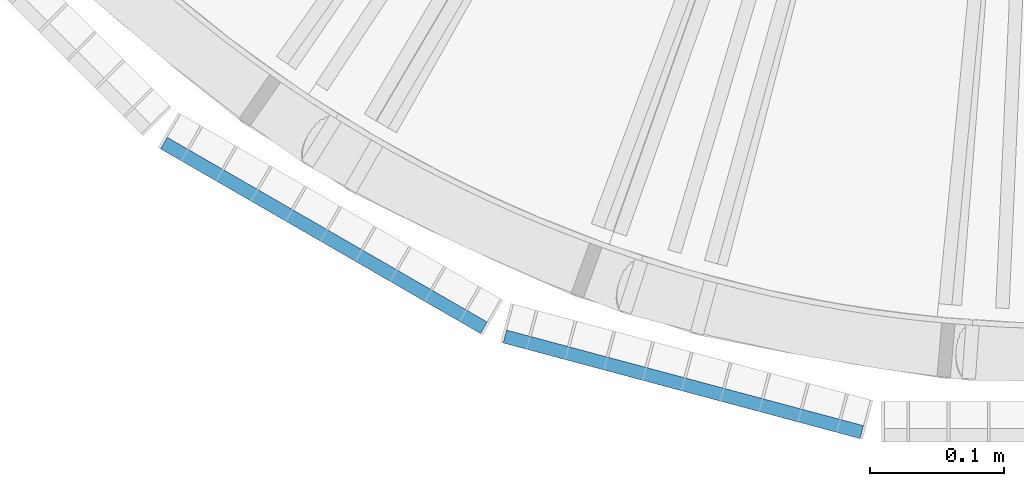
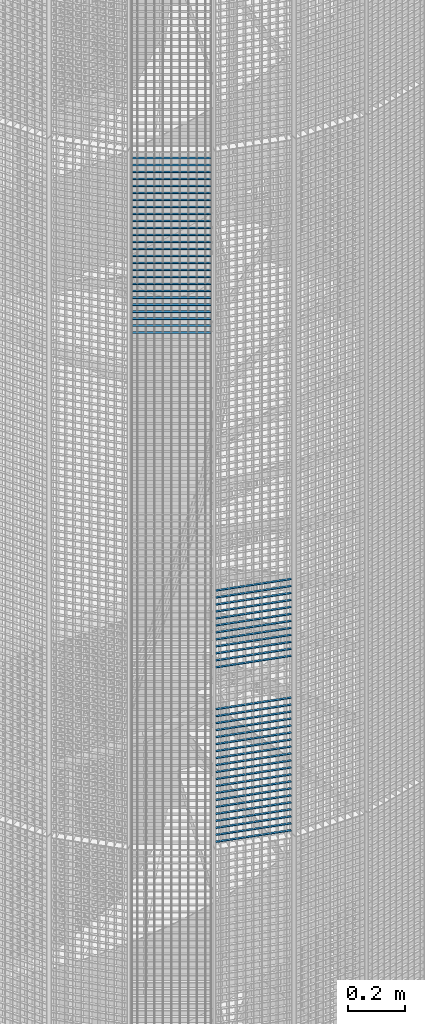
# One storey, part 146 of 1183: 58 beams, 2 elements without a shape of their own.
"""IFC2X3 building model written with IfcOpenShell, lengths in millimetres."""

from ifc_helpers import new_model, si_unit, frame, origin_with_axes, origin_2d_with_axis, place, context, subcontext, project, spatial, rectangle, extrude, material, type_object, element, aggregate, save


model = new_model("IFC2X3")

# Units and contexts
model_context = context("Model", 3, precision=1e-05, world=origin_with_axes())
body_context = subcontext(model_context, "Body", "Model", "MODEL_VIEW")
ifc_project = project(units=[si_unit("LENGTHUNIT", "METRE", prefix="MILLI"), si_unit("AREAUNIT", "SQUARE_METRE"), si_unit("VOLUMEUNIT", "CUBIC_METRE"), si_unit("MASSUNIT", "GRAM", prefix="KILO"), si_unit("TIMEUNIT", "SECOND"), si_unit("PLANEANGLEUNIT", "RADIAN"), si_unit("SOLIDANGLEUNIT", "STERADIAN"), si_unit("THERMODYNAMICTEMPERATUREUNIT", "DEGREE_CELSIUS"), si_unit("LUMINOUSINTENSITYUNIT", "LUMEN")], contexts=[model_context])

# Site, building, storey
site_placement = place(None, origin_with_axes())
site = spatial("IfcSite", under=ifc_project, at=site_placement, Name="Undefined", CompositionType="ELEMENT")
building_placement = place(site_placement, origin_with_axes())
building = spatial("IfcBuilding", under=site, at=building_placement, Name="Undefined", CompositionType="ELEMENT")
storey_placement = place(building_placement, origin_with_axes())
storey = spatial("IfcBuildingStorey", under=building, at=storey_placement, Name="Undefined", CompositionType="ELEMENT", Elevation=0.0)

# Assembly, beams
assembly_1_placement = place(storey_placement, origin_with_axes())
assembly_1 = element("IfcElementAssembly", 1, at=assembly_1_placement, inside=storey, Name="BORDURE", AssemblyPlace="NOTDEFINED", PredefinedType="NOTDEFINED")
ifc_material = material(Name="STEEL/S235JR")
beam_type = type_object("IfcBeamType", Name="PL2*10", PredefinedType="NOTDEFINED")
beam_1_placement = place(assembly_1_placement, frame((-421.483733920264, -1039.82309522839, 12780.0), z_axis=(-0.258819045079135, -0.965925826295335, 0.0), x_axis=(0.965925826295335, -0.258819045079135, 0.0)))
beam_1 = element("IfcBeam", 2, at=beam_1_placement, type_object=beam_type, material=ifc_material, Name="ENTRETOISE", context=body_context, shape_type="SweptSolid", body=[
    extrude(rectangle(XDim=2.0, YDim=10.0, at=origin_2d_with_axis()), frame((275.999999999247, 9.09494701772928e-13, 1.53210777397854e-14), z_axis=(-1.0, 0.0, 0.0), x_axis=(0.0, -1.0, 0.0)), (0.0, 0.0, 1.0), 276.0),
])
beam_2_placement = place(assembly_1_placement, frame((-421.483733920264, -1039.82309522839, 12600.0), z_axis=(-0.258819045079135, -0.965925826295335, 0.0), x_axis=(0.965925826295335, -0.258819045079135, 0.0)))
beam_2 = element("IfcBeam", 3, at=beam_2_placement, type_object=beam_type, material=ifc_material, Name="ENTRETOISE", context=body_context, shape_type="SweptSolid", body=[
    extrude(rectangle(XDim=2.0, YDim=10.0, at=origin_2d_with_axis()), frame((275.999999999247, 9.09494701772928e-13, 1.53210777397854e-14), z_axis=(-1.0, 0.0, 0.0), x_axis=(0.0, -1.0, 0.0)), (0.0, 0.0, 1.0), 276.0),
])
beam_3_placement = place(assembly_1_placement, frame((-421.483733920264, -1039.82309522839, 12810.0), z_axis=(-0.258819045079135, -0.965925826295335, 0.0), x_axis=(0.965925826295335, -0.258819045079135, 0.0)))
beam_3 = element("IfcBeam", 4, at=beam_3_placement, type_object=beam_type, material=ifc_material, Name="ENTRETOISE", context=body_context, shape_type="SweptSolid", body=[
    extrude(rectangle(XDim=2.0, YDim=10.0, at=origin_2d_with_axis()), frame((275.999999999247, 9.09494701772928e-13, 1.53210777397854e-14), z_axis=(-1.0, 0.0, 0.0), x_axis=(0.0, -1.0, 0.0)), (0.0, 0.0, 1.0), 276.0),
])
beam_4_placement = place(assembly_1_placement, frame((-421.483733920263, -1039.82309522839, 12570.0), z_axis=(-0.258819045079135, -0.965925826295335, 0.0), x_axis=(0.965925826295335, -0.258819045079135, 0.0)))
beam_4 = element("IfcBeam", 5, at=beam_4_placement, type_object=beam_type, material=ifc_material, Name="ENTRETOISE", context=body_context, shape_type="SweptSolid", body=[
    extrude(rectangle(XDim=2.0, YDim=10.0, at=origin_2d_with_axis()), frame((275.999999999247, 9.09494701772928e-13, 1.53210777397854e-14), z_axis=(-1.0, 0.0, 0.0), x_axis=(0.0, -1.0, 0.0)), (0.0, 0.0, 1.0), 276.0),
])
beam_5_placement = place(assembly_1_placement, frame((-421.483733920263, -1039.82309522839, 12540.0), z_axis=(-0.258819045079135, -0.965925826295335, 0.0), x_axis=(0.965925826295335, -0.258819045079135, 0.0)))
beam_5 = element("IfcBeam", 6, at=beam_5_placement, type_object=beam_type, material=ifc_material, Name="ENTRETOISE", context=body_context, shape_type="SweptSolid", body=[
    extrude(rectangle(XDim=2.0, YDim=10.0, at=origin_2d_with_axis()), frame((275.999999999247, 9.09494701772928e-13, 1.53210777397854e-14), z_axis=(-1.0, 0.0, 0.0), x_axis=(0.0, -1.0, 0.0)), (0.0, 0.0, 1.0), 276.0),
])
beam_6_placement = place(assembly_1_placement, frame((-421.483733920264, -1039.82309522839, 12840.0), z_axis=(-0.258819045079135, -0.965925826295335, 0.0), x_axis=(0.965925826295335, -0.258819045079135, 0.0)))
beam_6 = element("IfcBeam", 7, at=beam_6_placement, type_object=beam_type, material=ifc_material, Name="ENTRETOISE", context=body_context, shape_type="SweptSolid", body=[
    extrude(rectangle(XDim=2.0, YDim=10.0, at=origin_2d_with_axis()), frame((275.999999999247, 9.09494701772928e-13, 1.53210777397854e-14), z_axis=(-1.0, 0.0, 0.0), x_axis=(0.0, -1.0, 0.0)), (0.0, 0.0, 1.0), 276.0),
])
beam_7_placement = place(assembly_1_placement, frame((-421.483733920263, -1039.82309522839, 12510.0), z_axis=(-0.258819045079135, -0.965925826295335, 0.0), x_axis=(0.965925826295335, -0.258819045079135, 0.0)))
beam_7 = element("IfcBeam", 8, at=beam_7_placement, type_object=beam_type, material=ifc_material, Name="ENTRETOISE", context=body_context, shape_type="SweptSolid", body=[
    extrude(rectangle(XDim=2.0, YDim=10.0, at=origin_2d_with_axis()), frame((275.999999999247, 9.09494701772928e-13, 1.53210777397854e-14), z_axis=(-1.0, 0.0, 0.0), x_axis=(0.0, -1.0, 0.0)), (0.0, 0.0, 1.0), 276.0),
])
beam_8_placement = place(assembly_1_placement, frame((-421.483733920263, -1039.82309522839, 12480.0), z_axis=(-0.258819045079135, -0.965925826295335, 0.0), x_axis=(0.965925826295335, -0.258819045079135, 0.0)))
beam_8 = element("IfcBeam", 9, at=beam_8_placement, type_object=beam_type, material=ifc_material, Name="ENTRETOISE", context=body_context, shape_type="SweptSolid", body=[
    extrude(rectangle(XDim=2.0, YDim=10.0, at=origin_2d_with_axis()), frame((275.999999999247, 9.09494701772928e-13, 1.53210777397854e-14), z_axis=(-1.0, 0.0, 0.0), x_axis=(0.0, -1.0, 0.0)), (0.0, 0.0, 1.0), 276.0),
])
beam_9_placement = place(assembly_1_placement, frame((-421.483733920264, -1039.82309522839, 12870.0), z_axis=(-0.258819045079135, -0.965925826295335, 0.0), x_axis=(0.965925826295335, -0.258819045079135, 0.0)))
beam_9 = element("IfcBeam", 10, at=beam_9_placement, type_object=beam_type, material=ifc_material, Name="ENTRETOISE", context=body_context, shape_type="SweptSolid", body=[
    extrude(rectangle(XDim=2.0, YDim=10.0, at=origin_2d_with_axis()), frame((275.999999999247, 9.09494701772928e-13, 1.53210777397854e-14), z_axis=(-1.0, 0.0, 0.0), x_axis=(0.0, -1.0, 0.0)), (0.0, 0.0, 1.0), 276.0),
])
beam_10_placement = place(assembly_1_placement, frame((-421.483733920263, -1039.82309522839, 12450.0), z_axis=(-0.258819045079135, -0.965925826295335, 0.0), x_axis=(0.965925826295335, -0.258819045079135, 0.0)))
beam_10 = element("IfcBeam", 11, at=beam_10_placement, type_object=beam_type, material=ifc_material, Name="ENTRETOISE", context=body_context, shape_type="SweptSolid", body=[
    extrude(rectangle(XDim=2.0, YDim=10.0, at=origin_2d_with_axis()), frame((275.999999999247, 9.09494701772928e-13, 1.53210777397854e-14), z_axis=(-1.0, 0.0, 0.0), x_axis=(0.0, -1.0, 0.0)), (0.0, 0.0, 1.0), 276.0),
])
beam_11_placement = place(assembly_1_placement, frame((-421.483733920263, -1039.82309522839, 12420.0), z_axis=(-0.258819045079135, -0.965925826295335, 0.0), x_axis=(0.965925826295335, -0.258819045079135, 0.0)))
beam_11 = element("IfcBeam", 12, at=beam_11_placement, type_object=beam_type, material=ifc_material, Name="ENTRETOISE", context=body_context, shape_type="SweptSolid", body=[
    extrude(rectangle(XDim=2.0, YDim=10.0, at=origin_2d_with_axis()), frame((275.999999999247, 9.09494701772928e-13, 1.53210777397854e-14), z_axis=(-1.0, 0.0, 0.0), x_axis=(0.0, -1.0, 0.0)), (0.0, 0.0, 1.0), 276.0),
])
beam_12_placement = place(assembly_1_placement, frame((-421.483733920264, -1039.82309522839, 12900.0), z_axis=(-0.258819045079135, -0.965925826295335, 0.0), x_axis=(0.965925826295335, -0.258819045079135, 0.0)))
beam_12 = element("IfcBeam", 13, at=beam_12_placement, type_object=beam_type, material=ifc_material, Name="ENTRETOISE", context=body_context, shape_type="SweptSolid", body=[
    extrude(rectangle(XDim=2.0, YDim=10.0, at=origin_2d_with_axis()), frame((275.999999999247, 9.09494701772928e-13, 1.53210777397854e-14), z_axis=(-1.0, 0.0, 0.0), x_axis=(0.0, -1.0, 0.0)), (0.0, 0.0, 1.0), 276.0),
])
beam_13_placement = place(assembly_1_placement, frame((-421.483733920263, -1039.82309522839, 12390.0), z_axis=(-0.258819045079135, -0.965925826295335, 0.0), x_axis=(0.965925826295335, -0.258819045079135, 0.0)))
beam_13 = element("IfcBeam", 14, at=beam_13_placement, type_object=beam_type, material=ifc_material, Name="ENTRETOISE", context=body_context, shape_type="SweptSolid", body=[
    extrude(rectangle(XDim=2.0, YDim=10.0, at=origin_2d_with_axis()), frame((275.999999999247, 9.09494701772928e-13, 1.53210777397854e-14), z_axis=(-1.0, 0.0, 0.0), x_axis=(0.0, -1.0, 0.0)), (0.0, 0.0, 1.0), 276.0),
])
beam_14_placement = place(assembly_1_placement, frame((-421.483733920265, -1039.82309522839, 12930.0), z_axis=(-0.258819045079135, -0.965925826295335, 0.0), x_axis=(0.965925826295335, -0.258819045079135, 0.0)))
beam_14 = element("IfcBeam", 15, at=beam_14_placement, type_object=beam_type, material=ifc_material, Name="ENTRETOISE", context=body_context, shape_type="SweptSolid", body=[
    extrude(rectangle(XDim=2.0, YDim=10.0, at=origin_2d_with_axis()), frame((275.999999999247, 9.09494701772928e-13, 1.53210777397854e-14), z_axis=(-1.0, 0.0, 0.0), x_axis=(0.0, -1.0, 0.0)), (0.0, 0.0, 1.0), 276.0),
])
beam_15_placement = place(assembly_1_placement, frame((-421.483733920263, -1039.82309522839, 12360.0), z_axis=(-0.258819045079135, -0.965925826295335, 0.0), x_axis=(0.965925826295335, -0.258819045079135, 0.0)))
beam_15 = element("IfcBeam", 16, at=beam_15_placement, type_object=beam_type, material=ifc_material, Name="ENTRETOISE", context=body_context, shape_type="SweptSolid", body=[
    extrude(rectangle(XDim=2.0, YDim=10.0, at=origin_2d_with_axis()), frame((275.999999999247, 9.09494701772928e-13, 1.53210777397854e-14), z_axis=(-1.0, 0.0, 0.0), x_axis=(0.0, -1.0, 0.0)), (0.0, 0.0, 1.0), 276.0),
])
beam_16_placement = place(assembly_1_placement, frame((-421.483733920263, -1039.82309522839, 12330.0), z_axis=(-0.258819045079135, -0.965925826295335, 0.0), x_axis=(0.965925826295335, -0.258819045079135, 0.0)))
beam_16 = element("IfcBeam", 17, at=beam_16_placement, type_object=beam_type, material=ifc_material, Name="ENTRETOISE", context=body_context, shape_type="SweptSolid", body=[
    extrude(rectangle(XDim=2.0, YDim=10.0, at=origin_2d_with_axis()), frame((275.999999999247, 9.09494701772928e-13, 1.53210777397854e-14), z_axis=(-1.0, 0.0, 0.0), x_axis=(0.0, -1.0, 0.0)), (0.0, 0.0, 1.0), 276.0),
])
beam_17_placement = place(assembly_1_placement, frame((-421.483733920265, -1039.82309522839, 12960.0), z_axis=(-0.258819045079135, -0.965925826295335, 0.0), x_axis=(0.965925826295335, -0.258819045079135, 0.0)))
beam_17 = element("IfcBeam", 18, at=beam_17_placement, type_object=beam_type, material=ifc_material, Name="ENTRETOISE", context=body_context, shape_type="SweptSolid", body=[
    extrude(rectangle(XDim=2.0, YDim=10.0, at=origin_2d_with_axis()), frame((275.999999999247, 9.09494701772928e-13, 1.53210777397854e-14), z_axis=(-1.0, 0.0, 0.0), x_axis=(0.0, -1.0, 0.0)), (0.0, 0.0, 1.0), 276.0),
])
beam_18_placement = place(assembly_1_placement, frame((-421.483733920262, -1039.82309522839, 12300.0), z_axis=(-0.258819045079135, -0.965925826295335, 0.0), x_axis=(0.965925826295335, -0.258819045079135, 0.0)))
beam_18 = element("IfcBeam", 19, at=beam_18_placement, type_object=beam_type, material=ifc_material, Name="ENTRETOISE", context=body_context, shape_type="SweptSolid", body=[
    extrude(rectangle(XDim=2.0, YDim=10.0, at=origin_2d_with_axis()), frame((275.999999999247, 9.09494701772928e-13, 1.53210777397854e-14), z_axis=(-1.0, 0.0, 0.0), x_axis=(0.0, -1.0, 0.0)), (0.0, 0.0, 1.0), 276.0),
])
beam_19_placement = place(assembly_1_placement, frame((-421.483733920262, -1039.82309522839, 12270.0), z_axis=(-0.258819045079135, -0.965925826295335, 0.0), x_axis=(0.965925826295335, -0.258819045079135, 0.0)))
beam_19 = element("IfcBeam", 20, at=beam_19_placement, type_object=beam_type, material=ifc_material, Name="ENTRETOISE", context=body_context, shape_type="SweptSolid", body=[
    extrude(rectangle(XDim=2.0, YDim=10.0, at=origin_2d_with_axis()), frame((275.999999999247, 9.09494701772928e-13, 1.53210777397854e-14), z_axis=(-1.0, 0.0, 0.0), x_axis=(0.0, -1.0, 0.0)), (0.0, 0.0, 1.0), 276.0),
])
beam_20_placement = place(assembly_1_placement, frame((-421.483733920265, -1039.82309522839, 12990.0), z_axis=(-0.258819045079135, -0.965925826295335, 0.0), x_axis=(0.965925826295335, -0.258819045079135, 0.0)))
beam_20 = element("IfcBeam", 21, at=beam_20_placement, type_object=beam_type, material=ifc_material, Name="ENTRETOISE", context=body_context, shape_type="SweptSolid", body=[
    extrude(rectangle(XDim=2.0, YDim=10.0, at=origin_2d_with_axis()), frame((275.999999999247, 9.09494701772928e-13, 1.53210777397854e-14), z_axis=(-1.0, 0.0, 0.0), x_axis=(0.0, -1.0, 0.0)), (0.0, 0.0, 1.0), 276.0),
])
beam_21_placement = place(assembly_1_placement, frame((-421.483733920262, -1039.82309522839, 12240.0), z_axis=(-0.258819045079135, -0.965925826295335, 0.0), x_axis=(0.965925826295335, -0.258819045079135, 0.0)))
beam_21 = element("IfcBeam", 22, at=beam_21_placement, type_object=beam_type, material=ifc_material, Name="ENTRETOISE", context=body_context, shape_type="SweptSolid", body=[
    extrude(rectangle(XDim=2.0, YDim=10.0, at=origin_2d_with_axis()), frame((275.999999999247, 9.09494701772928e-13, 1.53210777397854e-14), z_axis=(-1.0, 0.0, 0.0), x_axis=(0.0, -1.0, 0.0)), (0.0, 0.0, 1.0), 276.0),
])
beam_22_placement = place(assembly_1_placement, frame((-421.483733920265, -1039.82309522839, 13020.0), z_axis=(-0.258819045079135, -0.965925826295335, 0.0), x_axis=(0.965925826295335, -0.258819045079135, 0.0)))
beam_22 = element("IfcBeam", 23, at=beam_22_placement, type_object=beam_type, material=ifc_material, Name="ENTRETOISE", context=body_context, shape_type="SweptSolid", body=[
    extrude(rectangle(XDim=2.0, YDim=10.0, at=origin_2d_with_axis()), frame((275.999999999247, 9.09494701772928e-13, 1.53210777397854e-14), z_axis=(-1.0, 0.0, 0.0), x_axis=(0.0, -1.0, 0.0)), (0.0, 0.0, 1.0), 276.0),
])
beam_23_placement = place(assembly_1_placement, frame((-421.483733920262, -1039.82309522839, 12210.0), z_axis=(-0.258819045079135, -0.965925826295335, 0.0), x_axis=(0.965925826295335, -0.258819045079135, 0.0)))
beam_23 = element("IfcBeam", 24, at=beam_23_placement, type_object=beam_type, material=ifc_material, Name="ENTRETOISE", context=body_context, shape_type="SweptSolid", body=[
    extrude(rectangle(XDim=2.0, YDim=10.0, at=origin_2d_with_axis()), frame((275.999999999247, 9.09494701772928e-13, 1.53210777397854e-14), z_axis=(-1.0, 0.0, 0.0), x_axis=(0.0, -1.0, 0.0)), (0.0, 0.0, 1.0), 276.0),
])
beam_24_placement = place(assembly_1_placement, frame((-421.483733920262, -1039.82309522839, 12180.0), z_axis=(-0.258819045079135, -0.965925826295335, 0.0), x_axis=(0.965925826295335, -0.258819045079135, 0.0)))
beam_24 = element("IfcBeam", 25, at=beam_24_placement, type_object=beam_type, material=ifc_material, Name="ENTRETOISE", context=body_context, shape_type="SweptSolid", body=[
    extrude(rectangle(XDim=2.0, YDim=10.0, at=origin_2d_with_axis()), frame((275.999999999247, 9.09494701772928e-13, 1.53210777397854e-14), z_axis=(-1.0, 0.0, 0.0), x_axis=(0.0, -1.0, 0.0)), (0.0, 0.0, 1.0), 276.0),
])
beam_25_placement = place(assembly_1_placement, frame((-421.483733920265, -1039.82309522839, 13050.0), z_axis=(-0.258819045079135, -0.965925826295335, 0.0), x_axis=(0.965925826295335, -0.258819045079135, 0.0)))
beam_25 = element("IfcBeam", 26, at=beam_25_placement, type_object=beam_type, material=ifc_material, Name="ENTRETOISE", context=body_context, shape_type="SweptSolid", body=[
    extrude(rectangle(XDim=2.0, YDim=10.0, at=origin_2d_with_axis()), frame((275.999999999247, 9.09494701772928e-13, 1.53210777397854e-14), z_axis=(-1.0, 0.0, 0.0), x_axis=(0.0, -1.0, 0.0)), (0.0, 0.0, 1.0), 276.0),
])
beam_26_placement = place(assembly_1_placement, frame((-421.483733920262, -1039.82309522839, 12150.0), z_axis=(-0.258819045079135, -0.965925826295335, 0.0), x_axis=(0.965925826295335, -0.258819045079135, 0.0)))
beam_26 = element("IfcBeam", 27, at=beam_26_placement, type_object=beam_type, material=ifc_material, Name="ENTRETOISE", context=body_context, shape_type="SweptSolid", body=[
    extrude(rectangle(XDim=2.0, YDim=10.0, at=origin_2d_with_axis()), frame((275.999999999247, 9.09494701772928e-13, 1.53210777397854e-14), z_axis=(-1.0, 0.0, 0.0), x_axis=(0.0, -1.0, 0.0)), (0.0, 0.0, 1.0), 276.0),
])
beam_27_placement = place(assembly_1_placement, frame((-421.483733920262, -1039.82309522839, 12120.0), z_axis=(-0.258819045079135, -0.965925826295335, 0.0), x_axis=(0.965925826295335, -0.258819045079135, 0.0)))
beam_27 = element("IfcBeam", 28, at=beam_27_placement, type_object=beam_type, material=ifc_material, Name="ENTRETOISE", context=body_context, shape_type="SweptSolid", body=[
    extrude(rectangle(XDim=2.0, YDim=10.0, at=origin_2d_with_axis()), frame((275.999999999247, 9.09494701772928e-13, 1.53210777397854e-14), z_axis=(-1.0, 0.0, 0.0), x_axis=(0.0, -1.0, 0.0)), (0.0, 0.0, 1.0), 276.0),
])
beam_28_placement = place(assembly_1_placement, frame((-421.483733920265, -1039.82309522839, 13080.0), z_axis=(-0.258819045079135, -0.965925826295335, 0.0), x_axis=(0.965925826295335, -0.258819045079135, 0.0)))
beam_28 = element("IfcBeam", 29, at=beam_28_placement, type_object=beam_type, material=ifc_material, Name="ENTRETOISE", context=body_context, shape_type="SweptSolid", body=[
    extrude(rectangle(XDim=2.0, YDim=10.0, at=origin_2d_with_axis()), frame((275.999999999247, 9.09494701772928e-13, 1.53210777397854e-14), z_axis=(-1.0, 0.0, 0.0), x_axis=(0.0, -1.0, 0.0)), (0.0, 0.0, 1.0), 276.0),
])
beam_29_placement = place(assembly_1_placement, frame((-421.483733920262, -1039.82309522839, 12090.0), z_axis=(-0.258819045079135, -0.965925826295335, 0.0), x_axis=(0.965925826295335, -0.258819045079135, 0.0)))
beam_29 = element("IfcBeam", 30, at=beam_29_placement, type_object=beam_type, material=ifc_material, Name="ENTRETOISE", context=body_context, shape_type="SweptSolid", body=[
    extrude(rectangle(XDim=2.0, YDim=10.0, at=origin_2d_with_axis()), frame((275.999999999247, 9.09494701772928e-13, 1.53210777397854e-14), z_axis=(-1.0, 0.0, 0.0), x_axis=(0.0, -1.0, 0.0)), (0.0, 0.0, 1.0), 276.0),
])
beam_30_placement = place(assembly_1_placement, frame((-421.483733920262, -1039.82309522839, 12060.0), z_axis=(-0.258819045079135, -0.965925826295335, 0.0), x_axis=(0.965925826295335, -0.258819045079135, 0.0)))
beam_30 = element("IfcBeam", 31, at=beam_30_placement, type_object=beam_type, material=ifc_material, Name="ENTRETOISE", context=body_context, shape_type="SweptSolid", body=[
    extrude(rectangle(XDim=2.0, YDim=10.0, at=origin_2d_with_axis()), frame((275.999999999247, 9.09494701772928e-13, 1.53210777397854e-14), z_axis=(-1.0, 0.0, 0.0), x_axis=(0.0, -1.0, 0.0)), (0.0, 0.0, 1.0), 276.0),
])
beam_31_placement = place(assembly_1_placement, frame((-421.483733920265, -1039.82309522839, 13110.0), z_axis=(-0.258819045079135, -0.965925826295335, 0.0), x_axis=(0.965925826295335, -0.258819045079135, 0.0)))
beam_31 = element("IfcBeam", 32, at=beam_31_placement, type_object=beam_type, material=ifc_material, Name="ENTRETOISE", context=body_context, shape_type="SweptSolid", body=[
    extrude(rectangle(XDim=2.0, YDim=10.0, at=origin_2d_with_axis()), frame((275.999999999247, 9.09494701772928e-13, 1.53210777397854e-14), z_axis=(-1.0, 0.0, 0.0), x_axis=(0.0, -1.0, 0.0)), (0.0, 0.0, 1.0), 276.0),
])
beam_32_placement = place(assembly_1_placement, frame((-421.48373392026, -1039.82309522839, 12030.0), z_axis=(-0.258819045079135, -0.965925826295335, 0.0), x_axis=(0.965925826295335, -0.258819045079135, 0.0)))
beam_32 = element("IfcBeam", 33, at=beam_32_placement, type_object=beam_type, material=ifc_material, Name="ENTRETOISE", context=body_context, shape_type="SweptSolid", body=[
    extrude(rectangle(XDim=2.0, YDim=10.0, at=origin_2d_with_axis()), frame((275.999999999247, 9.09494701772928e-13, 1.53210777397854e-14), z_axis=(-1.0, 0.0, 0.0), x_axis=(0.0, -1.0, 0.0)), (0.0, 0.0, 1.0), 276.0),
])
aggregate(assembly_1, [beam_1, beam_2, beam_3, beam_4, beam_5, beam_6, beam_7, beam_8, beam_9, beam_10, beam_11, beam_12, beam_13, beam_14, beam_15, beam_16, beam_17, beam_18, beam_19, beam_20, beam_21, beam_22, beam_23, beam_24, beam_25, beam_26, beam_27, beam_28, beam_29, beam_30, beam_31, beam_32])

assembly_2_placement = place(storey_placement, origin_with_axes())
assembly_2 = element("IfcElementAssembly", 34, at=assembly_2_placement, inside=storey, Name="BORDURE", AssemblyPlace="NOTDEFINED", PredefinedType="NOTDEFINED")
beam_33_placement = place(assembly_2_placement, frame((-676.248044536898, -895.303964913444, 14970.0), z_axis=(-0.49999999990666, -0.866025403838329, 0.0), x_axis=(0.866025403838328, -0.49999999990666, 0.0)))
beam_33 = element("IfcBeam", 35, at=beam_33_placement, type_object=beam_type, material=ifc_material, Name="ENTRETOISE", context=body_context, shape_type="SweptSolid", body=[
    extrude(rectangle(XDim=2.0, YDim=10.0, at=origin_2d_with_axis()), frame((275.999999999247, 9.09494701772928e-13, 1.53210777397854e-14), z_axis=(-1.0, 0.0, 0.0), x_axis=(0.0, -1.0, 0.0)), (0.0, 0.0, 1.0), 276.0),
])
beam_34_placement = place(assembly_2_placement, frame((-676.248044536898, -895.303964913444, 14940.0), z_axis=(-0.49999999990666, -0.866025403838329, 0.0), x_axis=(0.866025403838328, -0.49999999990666, 0.0)))
beam_34 = element("IfcBeam", 36, at=beam_34_placement, type_object=beam_type, material=ifc_material, Name="ENTRETOISE", context=body_context, shape_type="SweptSolid", body=[
    extrude(rectangle(XDim=2.0, YDim=10.0, at=origin_2d_with_axis()), frame((275.999999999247, 9.09494701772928e-13, 1.53210777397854e-14), z_axis=(-1.0, 0.0, 0.0), x_axis=(0.0, -1.0, 0.0)), (0.0, 0.0, 1.0), 276.0),
])
beam_35_placement = place(assembly_2_placement, frame((-676.248044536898, -895.303964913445, 14910.0), z_axis=(-0.49999999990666, -0.866025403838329, 0.0), x_axis=(0.866025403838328, -0.49999999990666, 0.0)))
beam_35 = element("IfcBeam", 37, at=beam_35_placement, type_object=beam_type, material=ifc_material, Name="ENTRETOISE", context=body_context, shape_type="SweptSolid", body=[
    extrude(rectangle(XDim=2.0, YDim=10.0, at=origin_2d_with_axis()), frame((275.999999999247, 9.09494701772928e-13, 1.53210777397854e-14), z_axis=(-1.0, 0.0, 0.0), x_axis=(0.0, -1.0, 0.0)), (0.0, 0.0, 1.0), 276.0),
])
beam_36_placement = place(assembly_2_placement, frame((-676.248044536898, -895.303964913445, 14880.0), z_axis=(-0.49999999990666, -0.866025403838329, 0.0), x_axis=(0.866025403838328, -0.49999999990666, 0.0)))
beam_36 = element("IfcBeam", 38, at=beam_36_placement, type_object=beam_type, material=ifc_material, Name="ENTRETOISE", context=body_context, shape_type="SweptSolid", body=[
    extrude(rectangle(XDim=2.0, YDim=10.0, at=origin_2d_with_axis()), frame((275.999999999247, 9.09494701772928e-13, 1.53210777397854e-14), z_axis=(-1.0, 0.0, 0.0), x_axis=(0.0, -1.0, 0.0)), (0.0, 0.0, 1.0), 276.0),
])
beam_37_placement = place(assembly_2_placement, frame((-676.248044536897, -895.303964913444, 14850.0), z_axis=(-0.49999999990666, -0.866025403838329, 0.0), x_axis=(0.866025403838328, -0.49999999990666, 0.0)))
beam_37 = element("IfcBeam", 39, at=beam_37_placement, type_object=beam_type, material=ifc_material, Name="ENTRETOISE", context=body_context, shape_type="SweptSolid", body=[
    extrude(rectangle(XDim=2.0, YDim=10.0, at=origin_2d_with_axis()), frame((275.999999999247, 9.09494701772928e-13, 1.53210777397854e-14), z_axis=(-1.0, 0.0, 0.0), x_axis=(0.0, -1.0, 0.0)), (0.0, 0.0, 1.0), 276.0),
])
beam_38_placement = place(assembly_2_placement, frame((-676.248044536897, -895.303964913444, 14820.0), z_axis=(-0.49999999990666, -0.866025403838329, 0.0), x_axis=(0.866025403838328, -0.49999999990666, 0.0)))
beam_38 = element("IfcBeam", 40, at=beam_38_placement, type_object=beam_type, material=ifc_material, Name="ENTRETOISE", context=body_context, shape_type="SweptSolid", body=[
    extrude(rectangle(XDim=2.0, YDim=10.0, at=origin_2d_with_axis()), frame((275.999999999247, 9.09494701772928e-13, 1.53210777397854e-14), z_axis=(-1.0, 0.0, 0.0), x_axis=(0.0, -1.0, 0.0)), (0.0, 0.0, 1.0), 276.0),
])
beam_39_placement = place(assembly_2_placement, frame((-676.248044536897, -895.303964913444, 14790.0), z_axis=(-0.49999999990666, -0.866025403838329, 0.0), x_axis=(0.866025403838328, -0.49999999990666, 0.0)))
beam_39 = element("IfcBeam", 41, at=beam_39_placement, type_object=beam_type, material=ifc_material, Name="ENTRETOISE", context=body_context, shape_type="SweptSolid", body=[
    extrude(rectangle(XDim=2.0, YDim=10.0, at=origin_2d_with_axis()), frame((275.999999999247, 9.09494701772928e-13, 1.53210777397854e-14), z_axis=(-1.0, 0.0, 0.0), x_axis=(0.0, -1.0, 0.0)), (0.0, 0.0, 1.0), 276.0),
])
beam_40_placement = place(assembly_2_placement, frame((-676.248044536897, -895.303964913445, 14760.0), z_axis=(-0.49999999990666, -0.866025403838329, 0.0), x_axis=(0.866025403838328, -0.49999999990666, 0.0)))
beam_40 = element("IfcBeam", 42, at=beam_40_placement, type_object=beam_type, material=ifc_material, Name="ENTRETOISE", context=body_context, shape_type="SweptSolid", body=[
    extrude(rectangle(XDim=2.0, YDim=10.0, at=origin_2d_with_axis()), frame((275.999999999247, 9.09494701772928e-13, 1.53210777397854e-14), z_axis=(-1.0, 0.0, 0.0), x_axis=(0.0, -1.0, 0.0)), (0.0, 0.0, 1.0), 276.0),
])
beam_41_placement = place(assembly_2_placement, frame((-676.248044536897, -895.303964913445, 14730.0), z_axis=(-0.49999999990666, -0.866025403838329, 0.0), x_axis=(0.866025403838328, -0.49999999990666, 0.0)))
beam_41 = element("IfcBeam", 43, at=beam_41_placement, type_object=beam_type, material=ifc_material, Name="ENTRETOISE", context=body_context, shape_type="SweptSolid", body=[
    extrude(rectangle(XDim=2.0, YDim=10.0, at=origin_2d_with_axis()), frame((275.999999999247, 9.09494701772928e-13, 1.53210777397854e-14), z_axis=(-1.0, 0.0, 0.0), x_axis=(0.0, -1.0, 0.0)), (0.0, 0.0, 1.0), 276.0),
])
beam_42_placement = place(assembly_2_placement, frame((-676.248044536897, -895.303964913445, 14700.0), z_axis=(-0.49999999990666, -0.866025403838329, 0.0), x_axis=(0.866025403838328, -0.49999999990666, 0.0)))
beam_42 = element("IfcBeam", 44, at=beam_42_placement, type_object=beam_type, material=ifc_material, Name="ENTRETOISE", context=body_context, shape_type="SweptSolid", body=[
    extrude(rectangle(XDim=2.0, YDim=10.0, at=origin_2d_with_axis()), frame((275.999999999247, 9.09494701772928e-13, 1.53210777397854e-14), z_axis=(-1.0, 0.0, 0.0), x_axis=(0.0, -1.0, 0.0)), (0.0, 0.0, 1.0), 276.0),
])
beam_43_placement = place(assembly_2_placement, frame((-676.248044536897, -895.303964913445, 14670.0), z_axis=(-0.49999999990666, -0.866025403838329, 0.0), x_axis=(0.866025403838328, -0.49999999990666, 0.0)))
beam_43 = element("IfcBeam", 45, at=beam_43_placement, type_object=beam_type, material=ifc_material, Name="ENTRETOISE", context=body_context, shape_type="SweptSolid", body=[
    extrude(rectangle(XDim=2.0, YDim=10.0, at=origin_2d_with_axis()), frame((275.999999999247, 9.09494701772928e-13, 1.53210777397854e-14), z_axis=(-1.0, 0.0, 0.0), x_axis=(0.0, -1.0, 0.0)), (0.0, 0.0, 1.0), 276.0),
])
beam_44_placement = place(assembly_2_placement, frame((-676.248044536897, -895.303964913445, 14640.0), z_axis=(-0.49999999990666, -0.866025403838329, 0.0), x_axis=(0.866025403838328, -0.49999999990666, 0.0)))
beam_44 = element("IfcBeam", 46, at=beam_44_placement, type_object=beam_type, material=ifc_material, Name="ENTRETOISE", context=body_context, shape_type="SweptSolid", body=[
    extrude(rectangle(XDim=2.0, YDim=10.0, at=origin_2d_with_axis()), frame((275.999999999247, 9.09494701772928e-13, 1.53210777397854e-14), z_axis=(-1.0, 0.0, 0.0), x_axis=(0.0, -1.0, 0.0)), (0.0, 0.0, 1.0), 276.0),
])
beam_45_placement = place(assembly_2_placement, frame((-676.248044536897, -895.303964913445, 14610.0), z_axis=(-0.49999999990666, -0.866025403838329, 0.0), x_axis=(0.866025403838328, -0.49999999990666, 0.0)))
beam_45 = element("IfcBeam", 47, at=beam_45_placement, type_object=beam_type, material=ifc_material, Name="ENTRETOISE", context=body_context, shape_type="SweptSolid", body=[
    extrude(rectangle(XDim=2.0, YDim=10.0, at=origin_2d_with_axis()), frame((275.999999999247, 9.09494701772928e-13, 1.53210777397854e-14), z_axis=(-1.0, 0.0, 0.0), x_axis=(0.0, -1.0, 0.0)), (0.0, 0.0, 1.0), 276.0),
])
beam_46_placement = place(assembly_2_placement, frame((-676.248044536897, -895.303964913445, 14580.0), z_axis=(-0.49999999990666, -0.866025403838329, 0.0), x_axis=(0.866025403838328, -0.49999999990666, 0.0)))
beam_46 = element("IfcBeam", 48, at=beam_46_placement, type_object=beam_type, material=ifc_material, Name="ENTRETOISE", context=body_context, shape_type="SweptSolid", body=[
    extrude(rectangle(XDim=2.0, YDim=10.0, at=origin_2d_with_axis()), frame((275.999999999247, 9.09494701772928e-13, 1.53210777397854e-14), z_axis=(-1.0, 0.0, 0.0), x_axis=(0.0, -1.0, 0.0)), (0.0, 0.0, 1.0), 276.0),
])
beam_47_placement = place(assembly_2_placement, frame((-676.248044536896, -895.303964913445, 14550.0), z_axis=(-0.49999999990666, -0.866025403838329, 0.0), x_axis=(0.866025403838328, -0.49999999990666, 0.0)))
beam_47 = element("IfcBeam", 49, at=beam_47_placement, type_object=beam_type, material=ifc_material, Name="ENTRETOISE", context=body_context, shape_type="SweptSolid", body=[
    extrude(rectangle(XDim=2.0, YDim=10.0, at=origin_2d_with_axis()), frame((275.999999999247, 9.09494701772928e-13, 1.53210777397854e-14), z_axis=(-1.0, 0.0, 0.0), x_axis=(0.0, -1.0, 0.0)), (0.0, 0.0, 1.0), 276.0),
])
beam_48_placement = place(assembly_2_placement, frame((-676.248044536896, -895.303964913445, 14520.0), z_axis=(-0.49999999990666, -0.866025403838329, 0.0), x_axis=(0.866025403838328, -0.49999999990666, 0.0)))
beam_48 = element("IfcBeam", 50, at=beam_48_placement, type_object=beam_type, material=ifc_material, Name="ENTRETOISE", context=body_context, shape_type="SweptSolid", body=[
    extrude(rectangle(XDim=2.0, YDim=10.0, at=origin_2d_with_axis()), frame((275.999999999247, 9.09494701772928e-13, 1.53210777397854e-14), z_axis=(-1.0, 0.0, 0.0), x_axis=(0.0, -1.0, 0.0)), (0.0, 0.0, 1.0), 276.0),
])
beam_49_placement = place(assembly_2_placement, frame((-676.248044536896, -895.303964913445, 14490.0), z_axis=(-0.49999999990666, -0.866025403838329, 0.0), x_axis=(0.866025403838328, -0.49999999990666, 0.0)))
beam_49 = element("IfcBeam", 51, at=beam_49_placement, type_object=beam_type, material=ifc_material, Name="ENTRETOISE", context=body_context, shape_type="SweptSolid", body=[
    extrude(rectangle(XDim=2.0, YDim=10.0, at=origin_2d_with_axis()), frame((275.999999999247, 9.09494701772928e-13, 1.53210777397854e-14), z_axis=(-1.0, 0.0, 0.0), x_axis=(0.0, -1.0, 0.0)), (0.0, 0.0, 1.0), 276.0),
])
beam_50_placement = place(assembly_2_placement, frame((-676.248044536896, -895.303964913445, 14460.0), z_axis=(-0.49999999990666, -0.866025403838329, 0.0), x_axis=(0.866025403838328, -0.49999999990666, 0.0)))
beam_50 = element("IfcBeam", 52, at=beam_50_placement, type_object=beam_type, material=ifc_material, Name="ENTRETOISE", context=body_context, shape_type="SweptSolid", body=[
    extrude(rectangle(XDim=2.0, YDim=10.0, at=origin_2d_with_axis()), frame((275.999999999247, 9.09494701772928e-13, 1.53210777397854e-14), z_axis=(-1.0, 0.0, 0.0), x_axis=(0.0, -1.0, 0.0)), (0.0, 0.0, 1.0), 276.0),
])
beam_51_placement = place(assembly_2_placement, frame((-676.248044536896, -895.303964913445, 14430.0), z_axis=(-0.49999999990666, -0.866025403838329, 0.0), x_axis=(0.866025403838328, -0.49999999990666, 0.0)))
beam_51 = element("IfcBeam", 53, at=beam_51_placement, type_object=beam_type, material=ifc_material, Name="ENTRETOISE", context=body_context, shape_type="SweptSolid", body=[
    extrude(rectangle(XDim=2.0, YDim=10.0, at=origin_2d_with_axis()), frame((275.999999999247, 9.09494701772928e-13, 1.53210777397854e-14), z_axis=(-1.0, 0.0, 0.0), x_axis=(0.0, -1.0, 0.0)), (0.0, 0.0, 1.0), 276.0),
])
beam_52_placement = place(assembly_2_placement, frame((-676.248044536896, -895.303964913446, 14400.0), z_axis=(-0.49999999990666, -0.866025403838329, 0.0), x_axis=(0.866025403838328, -0.49999999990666, 0.0)))
beam_52 = element("IfcBeam", 54, at=beam_52_placement, type_object=beam_type, material=ifc_material, Name="ENTRETOISE", context=body_context, shape_type="SweptSolid", body=[
    extrude(rectangle(XDim=2.0, YDim=10.0, at=origin_2d_with_axis()), frame((275.999999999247, 9.09494701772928e-13, 1.53210777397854e-14), z_axis=(-1.0, 0.0, 0.0), x_axis=(0.0, -1.0, 0.0)), (0.0, 0.0, 1.0), 276.0),
])
beam_53_placement = place(assembly_2_placement, frame((-676.248044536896, -895.303964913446, 14370.0), z_axis=(-0.49999999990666, -0.866025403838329, 0.0), x_axis=(0.866025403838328, -0.49999999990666, 0.0)))
beam_53 = element("IfcBeam", 55, at=beam_53_placement, type_object=beam_type, material=ifc_material, Name="ENTRETOISE", context=body_context, shape_type="SweptSolid", body=[
    extrude(rectangle(XDim=2.0, YDim=10.0, at=origin_2d_with_axis()), frame((275.999999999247, 9.09494701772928e-13, 1.53210777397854e-14), z_axis=(-1.0, 0.0, 0.0), x_axis=(0.0, -1.0, 0.0)), (0.0, 0.0, 1.0), 276.0),
])
beam_54_placement = place(assembly_2_placement, frame((-676.248044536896, -895.303964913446, 14340.0), z_axis=(-0.49999999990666, -0.866025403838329, 0.0), x_axis=(0.866025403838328, -0.49999999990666, 0.0)))
beam_54 = element("IfcBeam", 56, at=beam_54_placement, type_object=beam_type, material=ifc_material, Name="ENTRETOISE", context=body_context, shape_type="SweptSolid", body=[
    extrude(rectangle(XDim=2.0, YDim=10.0, at=origin_2d_with_axis()), frame((275.999999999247, 9.09494701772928e-13, 1.53210777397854e-14), z_axis=(-1.0, 0.0, 0.0), x_axis=(0.0, -1.0, 0.0)), (0.0, 0.0, 1.0), 276.0),
])
beam_55_placement = place(assembly_2_placement, frame((-676.248044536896, -895.303964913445, 14310.0), z_axis=(-0.49999999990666, -0.866025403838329, 0.0), x_axis=(0.866025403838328, -0.49999999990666, 0.0)))
beam_55 = element("IfcBeam", 57, at=beam_55_placement, type_object=beam_type, material=ifc_material, Name="ENTRETOISE", context=body_context, shape_type="SweptSolid", body=[
    extrude(rectangle(XDim=2.0, YDim=10.0, at=origin_2d_with_axis()), frame((275.999999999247, 9.09494701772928e-13, 1.53210777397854e-14), z_axis=(-1.0, 0.0, 0.0), x_axis=(0.0, -1.0, 0.0)), (0.0, 0.0, 1.0), 276.0),
])
beam_56_placement = place(assembly_2_placement, frame((-676.248044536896, -895.303964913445, 14280.0), z_axis=(-0.49999999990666, -0.866025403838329, 0.0), x_axis=(0.866025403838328, -0.49999999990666, 0.0)))
beam_56 = element("IfcBeam", 58, at=beam_56_placement, type_object=beam_type, material=ifc_material, Name="ENTRETOISE", context=body_context, shape_type="SweptSolid", body=[
    extrude(rectangle(XDim=2.0, YDim=10.0, at=origin_2d_with_axis()), frame((275.999999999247, 9.09494701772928e-13, 1.53210777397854e-14), z_axis=(-1.0, 0.0, 0.0), x_axis=(0.0, -1.0, 0.0)), (0.0, 0.0, 1.0), 276.0),
])
beam_57_placement = place(assembly_2_placement, frame((-676.248044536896, -895.303964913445, 14250.0), z_axis=(-0.49999999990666, -0.866025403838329, 0.0), x_axis=(0.866025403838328, -0.49999999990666, 0.0)))
beam_57 = element("IfcBeam", 59, at=beam_57_placement, type_object=beam_type, material=ifc_material, Name="ENTRETOISE", context=body_context, shape_type="SweptSolid", body=[
    extrude(rectangle(XDim=2.0, YDim=10.0, at=origin_2d_with_axis()), frame((275.999999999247, 9.09494701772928e-13, 1.53210777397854e-14), z_axis=(-1.0, 0.0, 0.0), x_axis=(0.0, -1.0, 0.0)), (0.0, 0.0, 1.0), 276.0),
])
beam_58_placement = place(assembly_2_placement, frame((-676.248044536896, -895.303964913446, 14220.0), z_axis=(-0.49999999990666, -0.866025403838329, 0.0), x_axis=(0.866025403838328, -0.49999999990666, 0.0)))
beam_58 = element("IfcBeam", 60, at=beam_58_placement, type_object=beam_type, material=ifc_material, Name="ENTRETOISE", context=body_context, shape_type="SweptSolid", body=[
    extrude(rectangle(XDim=2.0, YDim=10.0, at=origin_2d_with_axis()), frame((275.999999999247, 9.09494701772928e-13, 1.53210777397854e-14), z_axis=(-1.0, 0.0, 0.0), x_axis=(0.0, -1.0, 0.0)), (0.0, 0.0, 1.0), 276.0),
])
aggregate(assembly_2, [beam_33, beam_34, beam_35, beam_36, beam_37, beam_38, beam_39, beam_40, beam_41, beam_42, beam_43, beam_44, beam_45, beam_46, beam_47, beam_48, beam_49, beam_50, beam_51, beam_52, beam_53, beam_54, beam_55, beam_56, beam_57, beam_58])

save(model, "model.ifc")
